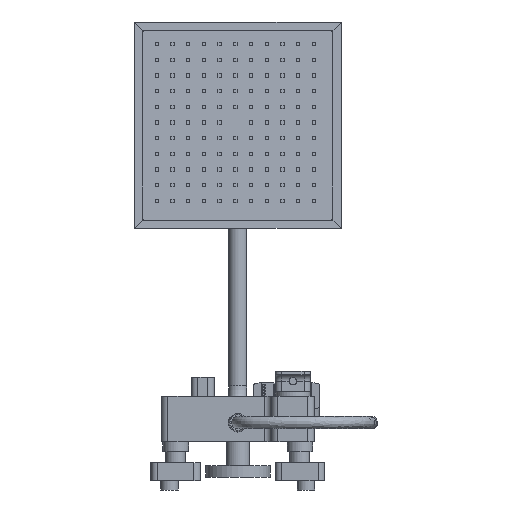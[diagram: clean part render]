
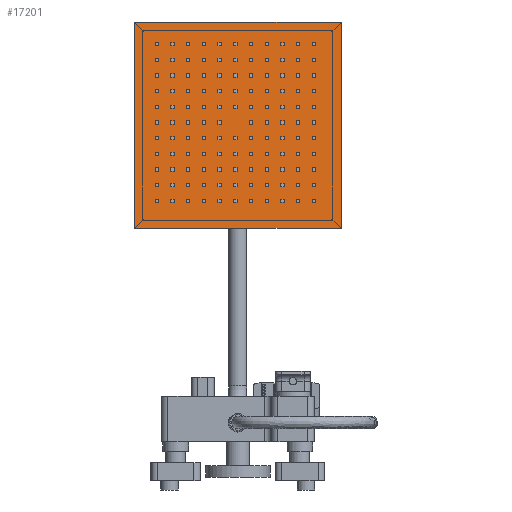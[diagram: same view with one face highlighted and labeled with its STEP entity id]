
A CAD part, front view. The second image highlights one B-rep face of the part: STEP entity #17201.
In plain terms, the highlighted planar face has unit normal (0, -0.996, 0.087).
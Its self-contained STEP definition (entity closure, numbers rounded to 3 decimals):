
#555=PLANE('',#18766);
#1625=FACE_OUTER_BOUND('',#2782,.T.);
#2782=EDGE_LOOP('',(#12578,#12579,#12580,#12581));
#3945=LINE('',#25469,#6035);
#3948=LINE('',#25474,#6038);
#3949=LINE('',#25482,#6039);
#3951=LINE('',#25485,#6041);
#6035=VECTOR('',#20327,10.);
#6038=VECTOR('',#20332,10.);
#6039=VECTOR('',#20341,10.);
#6041=VECTOR('',#20345,10.);
#8404=VERTEX_POINT('',#25466);
#8405=VERTEX_POINT('',#25468);
#8406=VERTEX_POINT('',#25472);
#8409=VERTEX_POINT('',#25481);
#10052=EDGE_CURVE('',#8405,#8404,#3945,.T.);
#10055=EDGE_CURVE('',#8406,#8404,#3948,.T.);
#10058=EDGE_CURVE('',#8405,#8409,#3949,.T.);
#10060=EDGE_CURVE('',#8406,#8409,#3951,.T.);
#12578=ORIENTED_EDGE('',*,*,#10052,.T.);
#12579=ORIENTED_EDGE('',*,*,#10055,.F.);
#12580=ORIENTED_EDGE('',*,*,#10060,.T.);
#12581=ORIENTED_EDGE('',*,*,#10058,.F.);
#17201=ADVANCED_FACE('',(#1625),#555,.T.);
#18766=AXIS2_PLACEMENT_3D('',#25486,#20346,#20347);
#20327=DIRECTION('',(1.,0.,0.));
#20332=DIRECTION('',(0.,-0.087,-0.996));
#20341=DIRECTION('',(0.,0.087,0.996));
#20345=DIRECTION('',(-1.,0.,0.));
#20346=DIRECTION('center_axis',(0.,-0.996,0.087));
#20347=DIRECTION('ref_axis',(0.,-0.087,-0.996));
#25466=CARTESIAN_POINT('',(125.,943.826,230.531));
#25468=CARTESIAN_POINT('',(-125.,943.826,230.531));
#25469=CARTESIAN_POINT('',(0.,943.826,230.531));
#25472=CARTESIAN_POINT('',(125.,965.615,479.579));
#25474=CARTESIAN_POINT('',(125.,965.615,479.579));
#25481=CARTESIAN_POINT('',(-125.,965.615,479.579));
#25482=CARTESIAN_POINT('',(-125.,965.615,479.579));
#25485=CARTESIAN_POINT('',(0.,965.615,479.579));
#25486=CARTESIAN_POINT('Origin',(0.,965.615,479.579));
